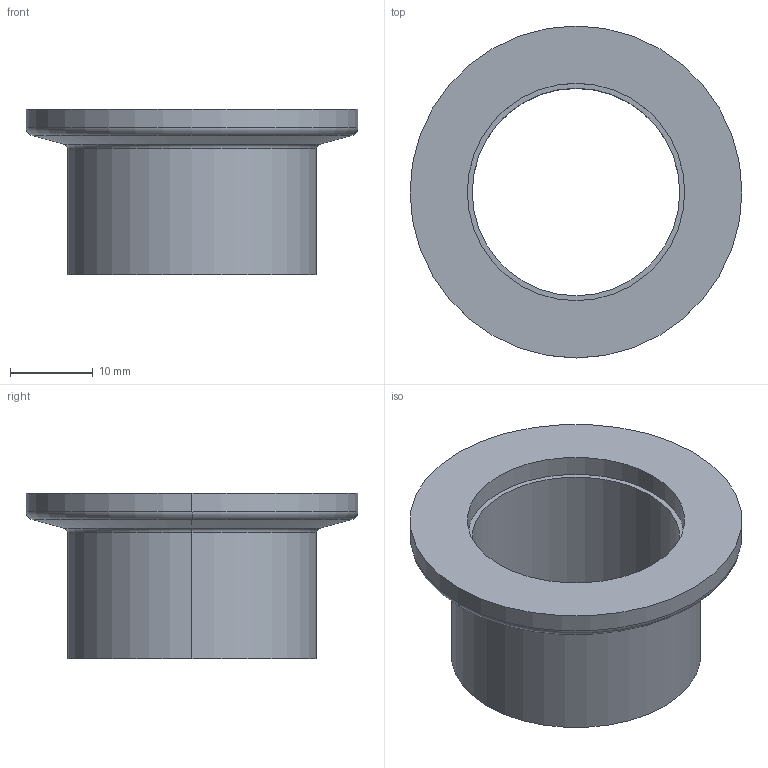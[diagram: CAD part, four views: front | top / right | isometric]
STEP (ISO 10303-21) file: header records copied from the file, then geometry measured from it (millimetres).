
FILE_DESCRIPTION (( 'STEP AP214' ), '1' );
FILE_NAME ('W3KF25.STEP', '2019-03-23T08:29:47', ( '' ), ( '' ), 'SwSTEP 2.0', 'SolidWorks 2018', '' );
FILE_SCHEMA (( 'AUTOMOTIVE_DESIGN' ));
Length unit declared in the file: millimetre
Products named in the file (1): W3KF25
Bounding box: 40 x 40 x 20 mm (x, y, z)
Volume: 6188.9 mm3; surface area: 4942.7 mm2
Topology: 1 solids, 1 shells, 17 faces, 34 edges, 20 vertices
Faces by surface type: cylinder 8, torus 4, plane 3, cone 2
Entity records: 486 total; most frequent: DIRECTION 94, CARTESIAN_POINT 72, ORIENTED_EDGE 68, AXIS2_PLACEMENT_3D 42, EDGE_CURVE 34, CIRCLE 24, VERTEX_POINT 20, EDGE_LOOP 20
